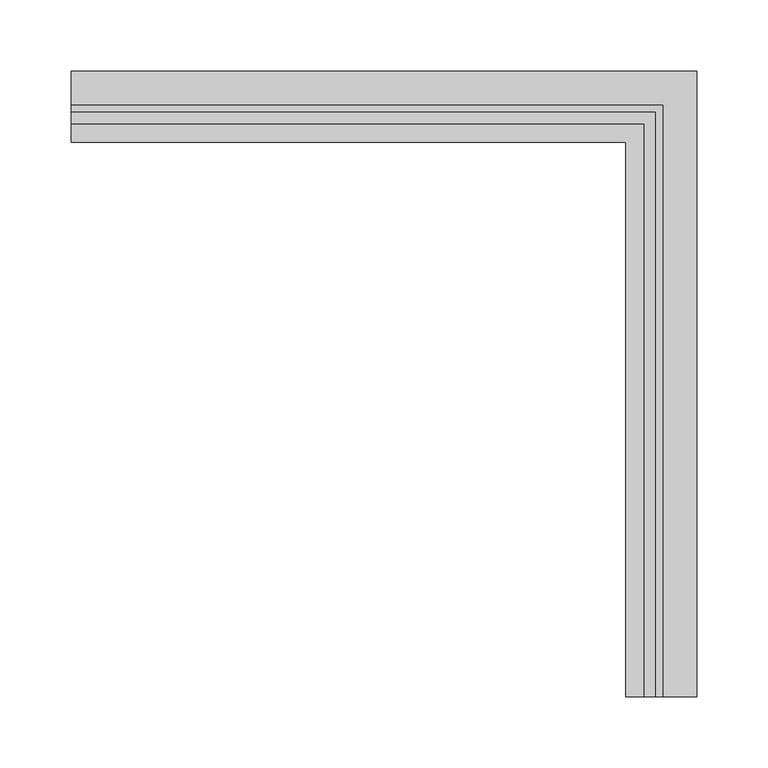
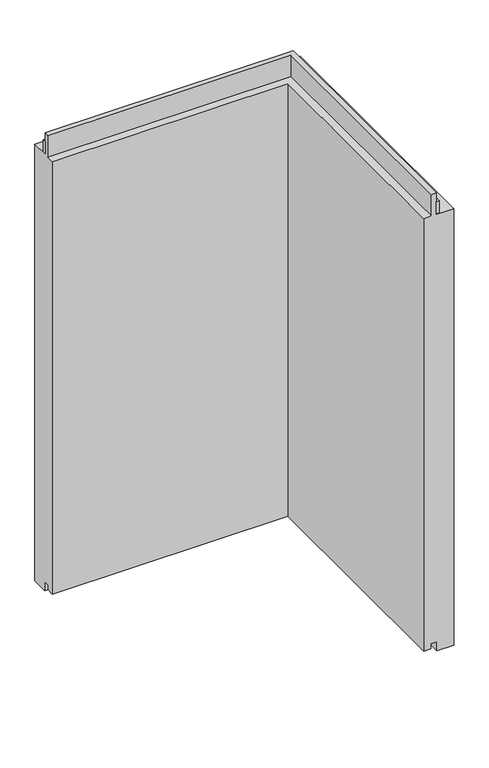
"""IFC4 building model written with IfcOpenShell, lengths in millimetres: plate geometry, Trimo_Qbiss Screen_L Corner Panel-HORIZONTAL : HR - B."""

from ifc_helpers import new_model, si_unit, frame, origin, place, context, project, spatial, polyline, outline, extrude, faceted_brep, source, transform, mapped, element, save


def plate_97dfdc25(model_context):
    return source(origin(), model_context, "Body", "SolidModel", [
        extrude(outline(polyline([(-163.75, 71.0), (-163.75, 76.0), (252.25, 76.0), (252.25, -340.0), (247.25, -340.0), (247.25, 71.0), (-163.75, 71.0)])), frame((0.0, 0.0, 765.95), z_axis=(0.0, 0.0, 1.0), x_axis=(1.0, 0.0, 0.0)), (0.0, 0.0, 1.0), 21.0),
        faceted_brep([(-163.75, 71.0, 764.95), (-163.75, 100.0, 764.95), (-163.75, 100.0, 0.0), (-163.75, 72.0, 0.0), (-163.75, 72.0, 15.5), (-163.75, 62.0, 15.5), (-163.75, 62.0, 7.0), (-163.75, 50.0, 7.0), (-163.75, 50.0, 764.95), (-163.75, 63.0, 764.95), (-163.75, 63.0, 802.45), (-163.75, 71.0, 802.45), (247.25, 71.0, 764.95), (247.25, -340.0, 764.95), (276.25, -340.0, 764.95), (276.25, 100.0, 764.95), (276.25, 100.0, 0.0), (276.25, -340.0, 0.0), (248.25, -340.0, 0.0), (248.25, 72.0, 0.0), (248.25, 72.0, 15.5), (248.25, -340.0, 15.5), (238.25, -340.0, 15.5), (238.25, 62.0, 15.5), (238.25, 62.0, 7.0), (238.25, -340.0, 7.0), (226.25, -340.0, 7.0), (226.25, 50.0, 7.0), (226.25, 50.0, 764.95), (226.25, -340.0, 764.95), (239.25, -340.0, 764.95), (239.25, 63.0, 764.95), (239.25, 63.0, 802.45), (239.25, -340.0, 802.45), (247.25, -340.0, 802.45), (247.25, 71.0, 802.45)], [[[0, 1, 2, 3, 4, 5, 6, 7, 8, 9, 10, 11]], [[1, 0, 12, 13, 14, 15]], [[2, 1, 15, 16]], [[3, 2, 16, 17, 18, 19]], [[4, 3, 19, 20]], [[5, 4, 20, 21, 22, 23]], [[6, 5, 23, 24]], [[7, 6, 24, 25, 26, 27]], [[8, 7, 27, 28]], [[9, 8, 28, 29, 30, 31]], [[10, 9, 31, 32]], [[11, 10, 32, 33, 34, 35]], [[0, 11, 35, 12]], [[13, 34, 33, 30, 29, 26, 25, 22, 21, 18, 17, 14]], [[16, 15, 14, 17]], [[20, 19, 18, 21]], [[24, 23, 22, 25]], [[28, 27, 26, 29]], [[32, 31, 30, 33]], [[12, 35, 34, 13]]]),
    ])


if __name__ == "__main__":
    model = new_model("IFC4")
    model_context = context("Model", 3, world=origin())
    ifc_project = project(units=[si_unit("LENGTHUNIT", "METRE", prefix="MILLI")], contexts=[model_context])
    site = spatial("IfcSite", under=ifc_project)
    building = spatial("IfcBuilding", under=site)
    placement = place(None, origin())
    plate_shape = plate_97dfdc25(model_context)
    element("IfcPlate", 1, ObjectType="Trimo_Qbiss Screen_L Corner Panel-HORIZONTAL : HR - B", at=placement, inside=building, context=model_context, shape_type="MappedRepresentation", body=[
        mapped(plate_shape, transform((0.0, 0.0, 0.0), x_axis=(1.0, 0.0, 0.0), y_axis=(0.0, 1.0, 0.0), z_axis=(0.0, 0.0, 1.0))),
    ])
    save(model, "model.ifc")
